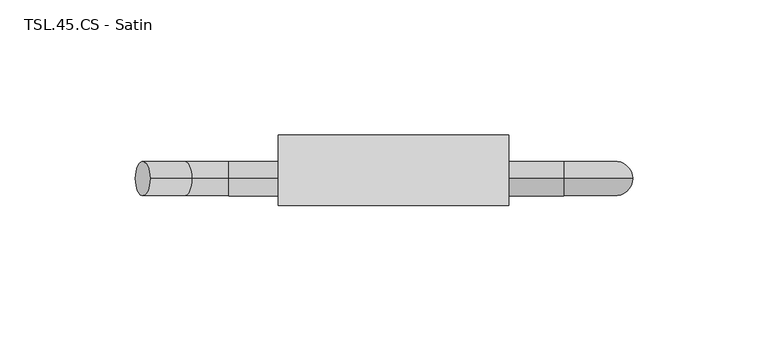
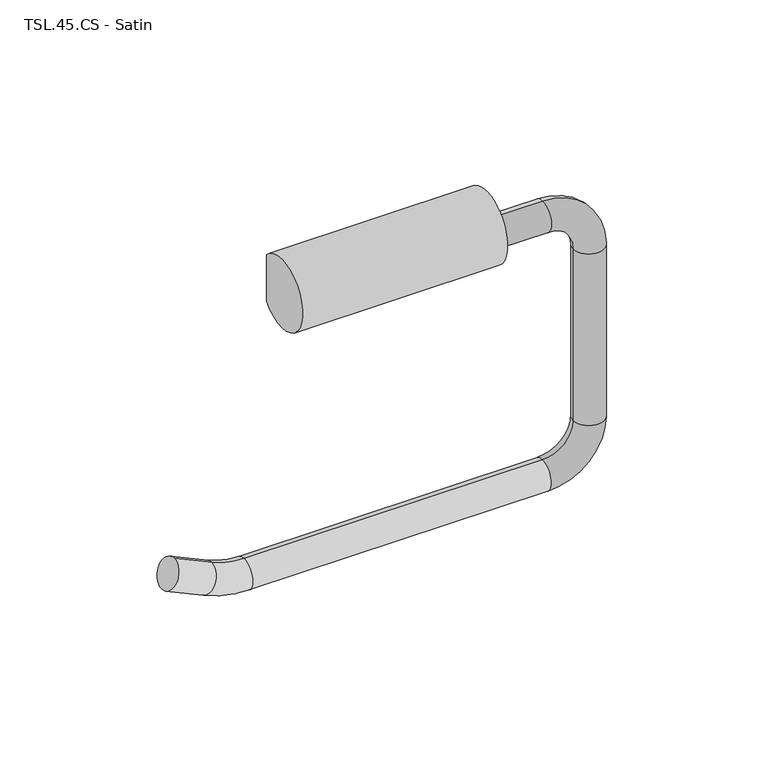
"""IFC4 building model written with IfcOpenShell, lengths in millimetres: proxy geometry, TSL_UK - TSL45 - Single Toilet Roll Holder : TSL.45.CS - Satin."""

from ifc_helpers import new_model, si_unit, point, frame, origin, place, context, project, spatial, circle_curve, ellipse_curve, trimmed, source, transform, mapped, element, save
from ifc_brep_helpers import plane_surface, cylinder_surface, revolved_surface, advanced_brep


def tsl_45_cs_satin_2506d694(model_context):
    return source(origin(), model_context, "Body", "AdvancedBrep", [
        advanced_brep(
        [(-39.2612648, 0.0, 909.3256783), (-39.2612648, 0.0, 929.6743217), (66.0410476, -16.0, 913.3), (66.0410476, -16.0, 926.0), (45.7387352, -16.0, 926.0), (45.7387352, -16.0, 913.3), (78.7410476, -16.0, 900.6), (91.4410476, -16.0, 900.6), (78.7410476, -16.0, 825.4), (91.4410476, -16.0, 825.4), (66.0410476, -16.0, 812.7), (66.0410476, -16.0, 800.0), (-57.6357795, -16.0, 812.7), (-57.6357795, -16.0, 800.0), (-86.6696284, -16.0, 822.9564572), (-92.0368803, -16.0, 811.4463483), (-71.0539093, -16.0, 815.6747278), (-76.4211613, -16.0, 804.1646189), (45.7387352, 0.0, 909.3256783), (45.7387352, 0.0, 929.6743217)],
        [
            (0, 1, circle_curve(frame((-39.2612648, -11.0219407, 919.5), z_axis=(-1.0, 0.0, 0.0), x_axis=(0.0, 1.0, 0.0)), 15.0)),
            (1, 0),
            (2, 3, circle_curve(frame((66.0410476, -16.0, 919.65), z_axis=(-1.0, 0.0, 0.0), x_axis=(0.0, 0.0, 1.0)), 6.35)),
            (3, 4),
            (4, 5, circle_curve(frame((45.7387352, -16.0, 919.65), z_axis=(1.0, 0.0, 0.0), x_axis=(0.0, 0.0, 1.0)), 6.35)),
            (5, 2),
            (3, 2, circle_curve(frame((66.0410476, -16.0, 919.65), z_axis=(-1.0, 0.0, 0.0), x_axis=(0.0, 0.0, 1.0)), 6.35)),
            (5, 4, circle_curve(frame((45.7387352, -16.0, 919.65), z_axis=(1.0, 0.0, 0.0), x_axis=(0.0, 0.0, 1.0)), 6.35)),
            (2, 6, circle_curve(frame((66.0410476, -16.0, 900.6), z_axis=(0.0, 1.0, 0.0), x_axis=(0.0, 0.0, 1.0)), 12.7)),
            (6, 7, circle_curve(frame((85.0910476, -16.0, 900.6), z_axis=(0.0, 0.0, 1.0), x_axis=(1.0, 0.0, 0.0)), 6.35)),
            (7, 3, circle_curve(frame((66.0410476, -16.0, 900.6), z_axis=(0.0, -1.0, 0.0), x_axis=(0.0, 0.0, 1.0)), 25.4)),
            (7, 6, circle_curve(frame((85.0910476, -16.0, 900.6), z_axis=(0.0, 0.0, 1.0), x_axis=(1.0, 0.0, 0.0)), 6.35)),
            (6, 8),
            (8, 9, circle_curve(frame((85.0910476, -16.0, 825.4), z_axis=(0.0, 0.0, 1.0), x_axis=(1.0, 0.0, 0.0)), 6.35)),
            (9, 7),
            (9, 8, circle_curve(frame((85.0910476, -16.0, 825.4), z_axis=(0.0, 0.0, 1.0), x_axis=(1.0, 0.0, 0.0)), 6.35)),
            (8, 10, circle_curve(frame((66.0410476, -16.0, 825.4), z_axis=(0.0, 1.0, 0.0), x_axis=(1.0, 0.0, 0.0)), 12.7)),
            (10, 11, circle_curve(frame((66.0410476, -16.0, 806.35), z_axis=(1.0, 0.0, 0.0), x_axis=(0.0, 0.0, -1.0)), 6.35)),
            (11, 9, circle_curve(frame((66.0410476, -16.0, 825.4), z_axis=(0.0, -1.0, 0.0), x_axis=(1.0, 0.0, 0.0)), 25.4)),
            (11, 10, circle_curve(frame((66.0410476, -16.0, 806.35), z_axis=(1.0, 0.0, 0.0), x_axis=(0.0, 0.0, -1.0)), 6.35)),
            (10, 12),
            (12, 13, circle_curve(frame((-57.6357795, -16.0, 806.35), z_axis=(1.0, 0.0, 0.0), x_axis=(0.0, 0.0, -1.0)), 6.35)),
            (13, 11),
            (13, 12, circle_curve(frame((-57.6357795, -16.0, 806.35), z_axis=(1.0, 0.0, 0.0), x_axis=(0.0, 0.0, -1.0)), 6.35)),
            (14, 15, circle_curve(frame((-89.3532544, -16.0, 817.2014027), z_axis=(-0.9063077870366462, 0.0, 0.42261826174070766), x_axis=(-0.42261826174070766, 0.0, -0.9063077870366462)), 6.35)),
            (15, 14, circle_curve(frame((-89.3532544, -16.0, 817.2014027), z_axis=(-0.9063077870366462, 0.0, 0.42261826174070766), x_axis=(-0.42261826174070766, 0.0, -0.9063077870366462)), 6.35)),
            (12, 16, circle_curve(frame((-57.6357795, -16.0, 844.45), z_axis=(0.0, 1.0, 0.0), x_axis=(0.0, 0.0, -1.0)), 31.75)),
            (16, 17, circle_curve(frame((-73.7375353, -16.0, 809.9196733), z_axis=(0.9063077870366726, 0.0, -0.4226182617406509), x_axis=(-0.4226182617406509, 0.0, -0.9063077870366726)), 6.35)),
            (17, 13, circle_curve(frame((-57.6357795, -16.0, 844.45), z_axis=(0.0, -1.0, 0.0), x_axis=(0.0, 0.0, -1.0)), 44.45)),
            (17, 16, circle_curve(frame((-73.7375353, -16.0, 809.9196733), z_axis=(0.9063077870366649, 0.0, -0.42261826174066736), x_axis=(-0.42261826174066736, 0.0, -0.9063077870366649)), 6.35)),
            (15, 17),
            (16, 14),
            (18, 19),
            (19, 18, circle_curve(frame((45.7387352, -11.0219407, 919.5), z_axis=(1.0, 0.0, 0.0), x_axis=(0.0, 1.0, 0.0)), 15.0)),
            (19, 1),
            (0, 18),
        ],
        [
            plane_surface(frame((-39.2612648, 0.0, 919.65), z_axis=(-1.0, 0.0, 0.0), x_axis=(0.0, -1.0, 0.0))),
            cylinder_surface(frame((-39.2612648, -16.0, 919.65), z_axis=(-1.0, 0.0, 0.0), x_axis=(0.0, 0.0, 1.0)), 6.35),
            revolved_surface(trimmed(ellipse_curve(frame((66.0410476, -16.0, 919.65), z_axis=(-1.0, 0.0, 0.0), x_axis=(0.0, 0.0, 1.0)), 6.35, 6.35), [point((66.0410476, -16.0, 913.3))], [point((66.0410476, -16.0, 926.0))], True, "CARTESIAN"), (66.0410476, 0.0, 900.6), (0.0, 1.0, 0.0)),
            revolved_surface(trimmed(ellipse_curve(frame((66.0410476, -16.0, 919.65), z_axis=(-1.0, 0.0, 0.0), x_axis=(0.0, 0.0, 1.0)), 6.35, 6.35), [point((66.0410476, -16.0, 926.0))], [point((66.0410476, -16.0, 913.3))], True, "CARTESIAN"), (66.0410476, 0.0, 900.6), (0.0, 1.0, 0.0)),
            cylinder_surface(frame((85.0910476, -16.0, 900.6), z_axis=(0.0, 0.0, 1.0), x_axis=(1.0, 0.0, 0.0)), 6.35),
            revolved_surface(trimmed(ellipse_curve(frame((85.0910476, -16.0, 825.4), z_axis=(0.0, 0.0, 1.0), x_axis=(1.0, 0.0, 0.0)), 6.35, 6.35), [point((78.7410476, -16.0, 825.4))], [point((91.4410476, -16.0, 825.4))], True, "CARTESIAN"), (66.0410476, 0.0, 825.4), (0.0, 1.0, 0.0)),
            revolved_surface(trimmed(ellipse_curve(frame((85.0910476, -16.0, 825.4), z_axis=(0.0, 0.0, 1.0), x_axis=(1.0, 0.0, 0.0)), 6.35, 6.35), [point((91.4410476, -16.0, 825.4))], [point((78.7410476, -16.0, 825.4))], True, "CARTESIAN"), (66.0410476, 0.0, 825.4), (0.0, 1.0, 0.0)),
            cylinder_surface(frame((66.0410476, -16.0, 806.35), z_axis=(1.0, 0.0, 0.0), x_axis=(0.0, 0.0, -1.0)), 6.35),
            plane_surface(frame((-89.3532544, 0.0, 817.2014027), z_axis=(-0.9063077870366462, 0.0, 0.4226182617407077), x_axis=(0.0, -1.0, 0.0))),
            revolved_surface(trimmed(ellipse_curve(frame((-57.6357795, -16.0, 806.35), z_axis=(1.0, 0.0, 0.0), x_axis=(0.0, 0.0, -1.0)), 6.35, 6.35), [point((-57.6357795, -16.0, 812.7))], [point((-57.6357795, -16.0, 800.0))], True, "CARTESIAN"), (-57.6357795, 0.0, 844.45), (0.0, 1.0, 0.0)),
            revolved_surface(trimmed(ellipse_curve(frame((-57.6357795, -16.0, 806.35), z_axis=(1.0, 0.0, 0.0), x_axis=(0.0, 0.0, -1.0)), 6.35, 6.35), [point((-57.6357795, -16.0, 800.0))], [point((-57.6357795, -16.0, 812.7))], True, "CARTESIAN"), (-57.6357795, 0.0, 844.45), (0.0, 1.0, 0.0)),
            cylinder_surface(frame((-73.7375353, -16.0, 809.9196733), z_axis=(0.9063077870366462, 0.0, -0.42261826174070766), x_axis=(-0.42261826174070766, 0.0, -0.9063077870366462)), 6.35),
            plane_surface(frame((45.7387352, 0.0, 929.6743217), z_axis=(1.0, 0.0, 0.0), x_axis=(0.0, 0.0, 1.0))),
            cylinder_surface(frame((-39.2612648, -11.0219407, 919.5), z_axis=(1.0, 0.0, 0.0), x_axis=(0.0, 1.0, 0.0)), 15.0),
            plane_surface(frame((45.7387352, 0.0, 909.3256783), z_axis=(0.0, 1.0, 0.0), x_axis=(-1.0, 0.0, 0.0))),
        ],
        [
            (0, [[1, 2]]),
            (1, [[3, 4, 5, 6]]),
            (1, [[7, -6, 8, -4]]),
            (2, [[-3, 9, 10, 11]]),
            (3, [[-7, -11, 12, -9]]),
            (4, [[-10, 13, 14, 15]]),
            (4, [[-12, -15, 16, -13]]),
            (5, [[-14, 17, 18, 19]]),
            (6, [[-16, -19, 20, -17]]),
            (7, [[-18, 21, 22, 23]]),
            (7, [[-20, -23, 24, -21]]),
            (8, [[25, 26]]),
            (9, [[-22, 27, 28, 29]]),
            (10, [[-24, -29, 30, -27]]),
            (11, [[-26, 31, -28, 32]]),
            (11, [[-25, -32, -30, -31]]),
            (12, [[33, 34], [-5, -8]]),
            (13, [[-34, 35, -1, 36]]),
            (14, [[-33, -36, -2, -35]]),
        ],
    ),
    ])


if __name__ == "__main__":
    model = new_model("IFC4")
    model_context = context("Model", 3, world=origin())
    ifc_project = project(units=[si_unit("LENGTHUNIT", "METRE", prefix="MILLI")], contexts=[model_context])
    site = spatial("IfcSite", under=ifc_project)
    building = spatial("IfcBuilding", under=site)
    placement = place(None, origin())
    tsl_45_cs_satin_shape = tsl_45_cs_satin_2506d694(model_context)
    element("IfcBuildingElementProxy", 1, Name="TSL_UK - TSL45 - Single Toilet Roll Holder : TSL.45.CS - Satin", ObjectType="TSL_UK - TSL45 - Single Toilet Roll Holder : TSL.45.CS - Satin", at=placement, inside=building, context=model_context, shape_type="MappedRepresentation", body=[
        mapped(tsl_45_cs_satin_shape, transform((0.0, 0.0, 0.0), x_axis=(1.0, 0.0, 0.0), y_axis=(0.0, 1.0, 0.0), z_axis=(0.0, 0.0, 1.0))),
    ])
    save(model, "model.ifc")
